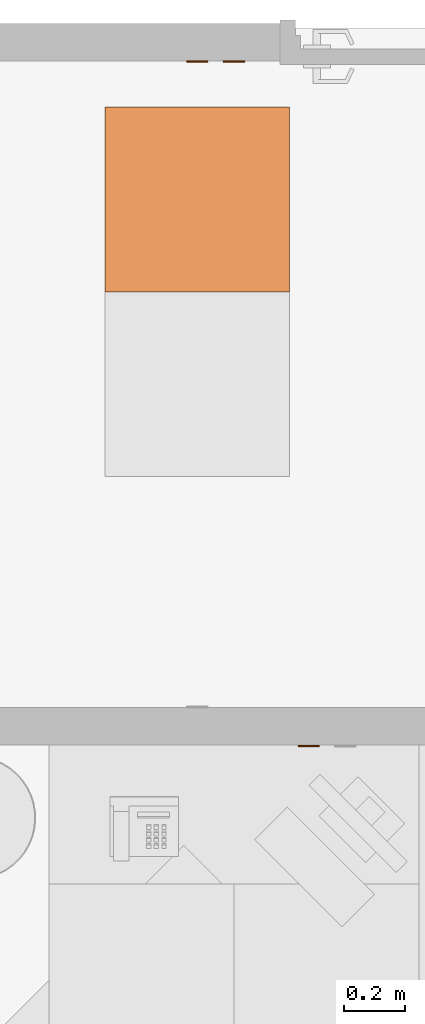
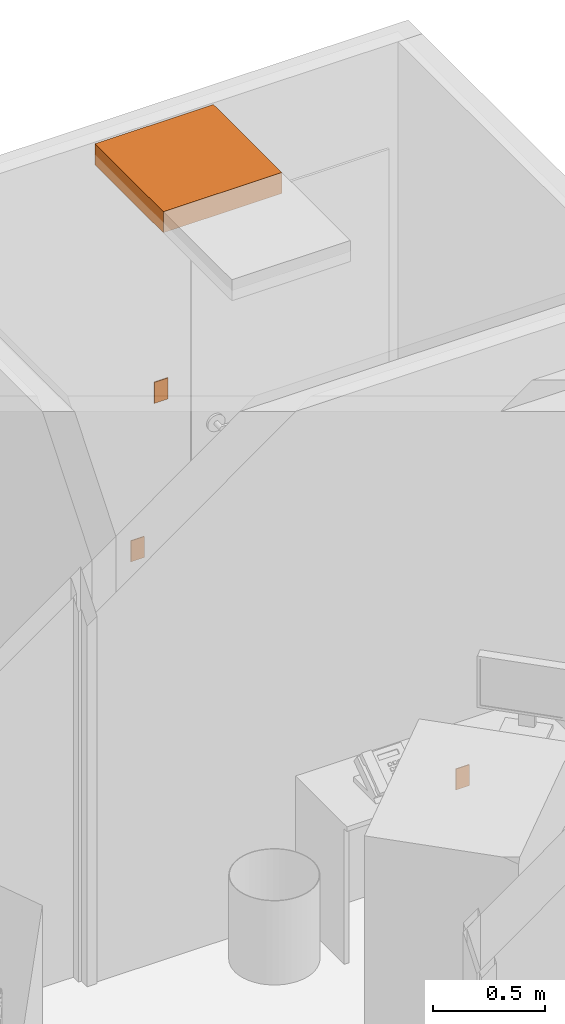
# One storey, part 18 of 20: 4 proxies.
"""IFC2X3 building model written with IfcOpenShell, lengths in feet."""

from ifc_helpers import new_model, entity, si_unit, converted_unit, derived_unit, direction, frame, frame_2d, origin, origin_2d_with_axis, place, context, subcontext, project, spatial, rectangle, extrude, source, transform, mapped, type_object, type_shapes, element, save


model = new_model("IFC2X3")

# Units and contexts
model_context = context("Model", 3, precision=0.0001, world=origin(), true_north=direction((6.12303176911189e-17, 1.0)))
body_context = subcontext(model_context, "Body", "Model", "MODEL_VIEW")
ifc_project = project(units=[converted_unit("LENGTHUNIT", "FOOT", entity("IfcRatioMeasure", 0.3048), si_unit("LENGTHUNIT", "METRE"), dimensions=[1, 0, 0, 0, 0, 0, 0]), converted_unit("AREAUNIT", "SQUARE FOOT", entity("IfcRatioMeasure", 0.09290304), si_unit("AREAUNIT", "SQUARE_METRE"), dimensions=[2, 0, 0, 0, 0, 0, 0]), converted_unit("VOLUMEUNIT", "CUBIC FOOT", entity("IfcRatioMeasure", 0.028316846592), si_unit("VOLUMEUNIT", "CUBIC_METRE"), dimensions=[3, 0, 0, 0, 0, 0, 0]), converted_unit("PLANEANGLEUNIT", "DEGREE", entity("IfcRatioMeasure", 0.0174532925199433), si_unit("PLANEANGLEUNIT", "RADIAN"), dimensions=[0, 0, 0, 0, 0, 0, 0]), si_unit("MASSUNIT", "GRAM", prefix="KILO"), derived_unit("MASSDENSITYUNIT", [(si_unit("MASSUNIT", "GRAM", prefix="KILO"), 1), (si_unit("LENGTHUNIT", "METRE"), -3)]), si_unit("TIMEUNIT", "SECOND"), si_unit("FREQUENCYUNIT", "HERTZ"), si_unit("THERMODYNAMICTEMPERATUREUNIT", "DEGREE_CELSIUS"), derived_unit("THERMALTRANSMITTANCEUNIT", [(si_unit("MASSUNIT", "GRAM", prefix="KILO"), 1), (si_unit("THERMODYNAMICTEMPERATUREUNIT", "KELVIN"), -1), (si_unit("TIMEUNIT", "SECOND"), -3)]), derived_unit("VOLUMETRICFLOWRATEUNIT", [(si_unit("LENGTHUNIT", "METRE"), 3), (si_unit("TIMEUNIT", "SECOND"), -1)]), si_unit("ELECTRICCURRENTUNIT", "AMPERE"), si_unit("ELECTRICVOLTAGEUNIT", "VOLT"), si_unit("POWERUNIT", "WATT"), si_unit("FORCEUNIT", "NEWTON"), si_unit("ILLUMINANCEUNIT", "LUX"), si_unit("LUMINOUSFLUXUNIT", "LUMEN"), si_unit("LUMINOUSINTENSITYUNIT", "CANDELA"), derived_unit("USERDEFINED", [(si_unit("MASSUNIT", "GRAM", prefix="KILO"), -1), (si_unit("LENGTHUNIT", "METRE"), -2), (si_unit("TIMEUNIT", "SECOND"), 3), (si_unit("LUMINOUSFLUXUNIT", "LUMEN"), 1)]), derived_unit("LINEARVELOCITYUNIT", [(si_unit("LENGTHUNIT", "METRE"), 1), (si_unit("TIMEUNIT", "SECOND"), -1)]), si_unit("PRESSUREUNIT", "PASCAL"), derived_unit("USERDEFINED", [(si_unit("LENGTHUNIT", "METRE"), -2), (si_unit("MASSUNIT", "GRAM", prefix="KILO"), 1), (si_unit("TIMEUNIT", "SECOND"), -2)])], contexts=[model_context])

# Site, building, storey, space
site_placement = place(None, origin())
site = spatial("IfcSite", under=ifc_project, at=site_placement, Name="Default", CompositionType="ELEMENT")
building_placement = place(site_placement, origin())
building = spatial("IfcBuilding", under=site, at=building_placement, Name="OUTPATIENT / PACT CLINIC (Ch. 265)", CompositionType="ELEMENT")
storey_placement = place(building_placement, origin())
storey = spatial("IfcBuildingStorey", under=building, at=storey_placement, Name="DATUM", CompositionType="ELEMENT", Elevation=0.0)
space_1_placement = place(storey_placement, origin())
space_1 = spatial("IfcSpace", under=storey, at=space_1_placement, CompositionType="ELEMENT", InteriorOrExteriorSpace="INTERNAL")

# Proxies
building_element_proxy_type_1 = type_object("IfcBuildingElementProxyType", Name="24\" x 24\"", PredefinedType="NOTDEFINED")
shared_shape_1 = source(origin(), body_context, "Body", "SweptSolid", [
    extrude(rectangle(XDim=2.00000000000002, YDim=2.00000000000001, at=origin_2d_with_axis()), frame((0.0, 0.0, 8.0), z_axis=(0.0, 0.0, 1.0), x_axis=(0.0, 1.0, 0.0)), (0.0, 0.0, 1.0), 0.375),
])
type_shapes(building_element_proxy_type_1, [shared_shape_1])
proxy_1_placement = place(space_1_placement, frame((69.8656759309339, -843.612339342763, 1.0)))
element("IfcBuildingElementProxy", 1, at=proxy_1_placement, inside=space_1, type_object=building_element_proxy_type_1, Name="Supply Diffuser:24\" x 24\"", ObjectType="24\" x 24\"", context=body_context, shape_type="MappedRepresentation", body=[
    mapped(shared_shape_1, transform((0.0, 0.0, 0.0), scale=1.0)),
])
building_element_proxy_type_2 = type_object("IfcBuildingElementProxyType", Name="Duplex", PredefinedType="NOTDEFINED")
shared_shape_2 = source(origin(), body_context, "Body", "SweptSolid", [
    extrude(rectangle(XDim=0.0156249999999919, YDim=0.229166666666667, at=origin_2d_with_axis()), frame((0.0, 0.210937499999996, 0.0), z_axis=(0.0, 0.0, 1.0), x_axis=(0.0, 1.0, 0.0)), (0.0, 0.0, 1.0), 0.37500000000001),
])
type_shapes(building_element_proxy_type_2, [shared_shape_2])
proxy_2_placement = place(space_1_placement, frame((69.8656759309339, -841.909214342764, 1.3125), z_axis=(0.0, 0.0, 1.0), x_axis=(-1.0, 0.0, 0.0)))
element("IfcBuildingElementProxy", 2, at=proxy_2_placement, inside=space_1, type_object=building_element_proxy_type_2, Name="Outlet, Duplex, Wall:Duplex", ObjectType="Duplex", context=body_context, shape_type="MappedRepresentation", body=[
    mapped(shared_shape_2, transform((0.0, 0.0, 0.0), scale=1.0)),
])
building_element_proxy_type_3 = type_object("IfcBuildingElementProxyType", Name="Single", PredefinedType="NOTDEFINED")
shared_shape_3 = source(origin(), body_context, "Body", "SweptSolid", [
    extrude(rectangle(XDim=0.0156249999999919, YDim=0.229166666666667, at=frame_2d((0.0, -1.11022302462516e-16), x_axis=(1.0, 0.0))), frame((0.0, 0.210937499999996, 0.0), z_axis=(0.0, 0.0, 1.0), x_axis=(0.0, 1.0, 0.0)), (0.0, 0.0, 1.0), 0.37500000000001),
])
type_shapes(building_element_proxy_type_3, [shared_shape_3])
proxy_3_placement = place(space_1_placement, frame((70.264113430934, -841.909214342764, 4.0), z_axis=(0.0, 0.0, 1.0), x_axis=(-1.0, 0.0, 0.0)))
element("IfcBuildingElementProxy", 3, at=proxy_3_placement, inside=space_1, type_object=building_element_proxy_type_3, Name="Switch, Single:Single", ObjectType="Single", context=body_context, shape_type="MappedRepresentation", body=[
    mapped(shared_shape_3, transform((0.0, 0.0, 0.0), scale=1.0)),
])

# Space
space_2_placement = place(storey_placement, origin())
space_2 = spatial("IfcSpace", under=storey, at=space_2_placement, CompositionType="ELEMENT", InteriorOrExteriorSpace="INTERNAL")

# Proxy
building_element_proxy_type_4 = type_object("IfcBuildingElementProxyType", Name="Telephone/Data", PredefinedType="NOTDEFINED")
shared_shape_4 = source(origin(), body_context, "Body", "SweptSolid", [
    extrude(rectangle(XDim=0.229166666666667, YDim=0.0156249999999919, at=origin_2d_with_axis()), frame((0.0, -0.210937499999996, 0.0), z_axis=(0.0, 0.0, 1.0), x_axis=(-1.0, 0.0, 0.0)), (0.0, 0.0, 1.0), 0.375),
])
type_shapes(building_element_proxy_type_4, [shared_shape_4])
proxy_4_placement = place(space_2_placement, frame((71.0714050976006, -849.315464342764, 1.3125)))
element("IfcBuildingElementProxy", 4, at=proxy_4_placement, inside=space_2, type_object=building_element_proxy_type_4, Name="Outlet, Communications:Telephone/Data", ObjectType="Telephone/Data", context=body_context, shape_type="MappedRepresentation", body=[
    mapped(shared_shape_4, transform((0.0, 0.0, 0.0), scale=1.0)),
])

save(model, "model.ifc")
